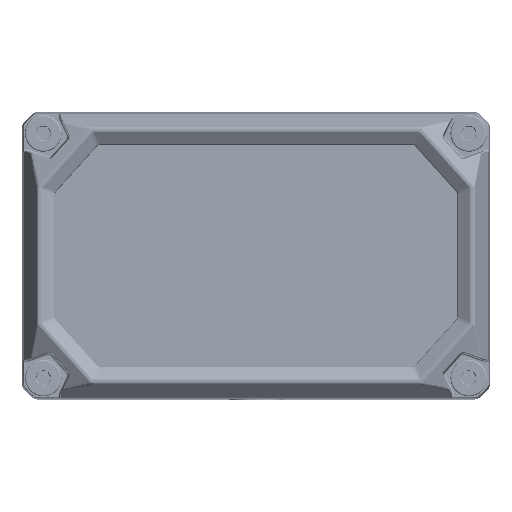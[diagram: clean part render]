
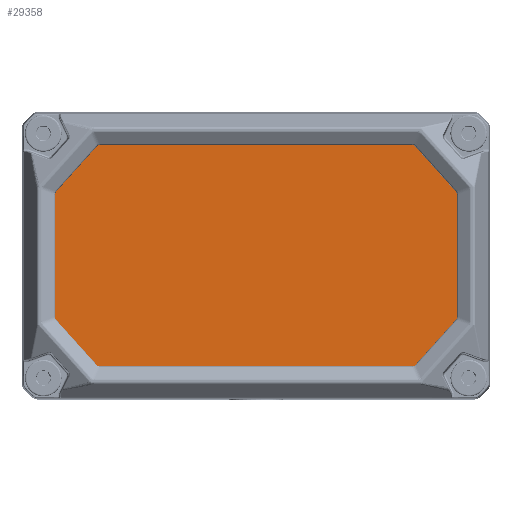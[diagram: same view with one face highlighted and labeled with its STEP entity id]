
A CAD part, top view. The second image highlights one B-rep face of the part: STEP entity #29358.
In plain terms, the highlighted planar face has unit normal (0, 0, 1).
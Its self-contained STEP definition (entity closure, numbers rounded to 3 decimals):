
#16135=LINE('',#138609,#21874);
#16136=LINE('',#138612,#21875);
#16137=LINE('',#138614,#21876);
#16138=LINE('',#138616,#21877);
#16139=LINE('',#138618,#21878);
#16140=LINE('',#138622,#21879);
#16141=LINE('',#138624,#21880);
#16142=LINE('',#138626,#21881);
#16143=LINE('',#138628,#21882);
#21874=VECTOR('',#112467,1.);
#21875=VECTOR('',#112468,1.);
#21876=VECTOR('',#112469,1.);
#21877=VECTOR('',#112470,1.);
#21878=VECTOR('',#112471,1.);
#21879=VECTOR('',#112474,1.);
#21880=VECTOR('',#112475,1.);
#21881=VECTOR('',#112476,1.);
#21882=VECTOR('',#112477,1.);
#29358=ADVANCED_FACE('',(#37605),#35278,.T.);
#35278=PLANE('',#102193);
#37605=FACE_OUTER_BOUND('',#42986,.T.);
#42986=EDGE_LOOP('',(#49976,#49977,#49978,#49979,#49980,#49981,#49982,#49983,
#49984,#49985));
#49976=ORIENTED_EDGE('',*,*,#84823,.F.);
#49977=ORIENTED_EDGE('',*,*,#84822,.F.);
#49978=ORIENTED_EDGE('',*,*,#84831,.F.);
#49979=ORIENTED_EDGE('',*,*,#84830,.F.);
#49980=ORIENTED_EDGE('',*,*,#84829,.F.);
#49981=ORIENTED_EDGE('',*,*,#84828,.F.);
#49982=ORIENTED_EDGE('',*,*,#84827,.F.);
#49983=ORIENTED_EDGE('',*,*,#84826,.F.);
#49984=ORIENTED_EDGE('',*,*,#84825,.F.);
#49985=ORIENTED_EDGE('',*,*,#84824,.F.);
#76382=VERTEX_POINT('',#138610);
#76383=VERTEX_POINT('',#138611);
#76384=VERTEX_POINT('',#138613);
#76385=VERTEX_POINT('',#138615);
#76386=VERTEX_POINT('',#138617);
#76387=VERTEX_POINT('',#138619);
#76388=VERTEX_POINT('',#138621);
#76389=VERTEX_POINT('',#138623);
#76390=VERTEX_POINT('',#138625);
#76391=VERTEX_POINT('',#138627);
#84822=EDGE_CURVE('',#76382,#76383,#16135,.T.);
#84823=EDGE_CURVE('',#76383,#76384,#16136,.T.);
#84824=EDGE_CURVE('',#76384,#76385,#16137,.T.);
#84825=EDGE_CURVE('',#76385,#76386,#16138,.T.);
#84826=EDGE_CURVE('',#76386,#76387,#16139,.T.);
#84827=EDGE_CURVE('',#76387,#76388,#98059,.T.);
#84828=EDGE_CURVE('',#76388,#76389,#16140,.T.);
#84829=EDGE_CURVE('',#76389,#76390,#16141,.T.);
#84830=EDGE_CURVE('',#76390,#76391,#16142,.T.);
#84831=EDGE_CURVE('',#76391,#76382,#16143,.T.);
#98059=CIRCLE('',#102173,8.);
#102173=AXIS2_PLACEMENT_3D('',#138620,#112472,#112473);
#102193=AXIS2_PLACEMENT_3D('',#138687,#112539,#112540);
#112467=DIRECTION('',(0.669,-0.743,0.));
#112468=DIRECTION('',(0.,-1.,0.));
#112469=DIRECTION('',(-0.669,-0.743,0.));
#112470=DIRECTION('',(-1.,0.,0.));
#112471=DIRECTION('',(-1.,0.,0.));
#112472=DIRECTION('',(0.,0.,1.));
#112473=DIRECTION('',(1.,0.,0.));
#112474=DIRECTION('',(0.,1.,0.));
#112475=DIRECTION('',(0.,1.,0.));
#112476=DIRECTION('',(0.669,0.743,0.));
#112477=DIRECTION('',(1.,0.,0.));
#112539=DIRECTION('',(0.,0.,1.));
#112540=DIRECTION('',(1.,0.,0.));
#138609=CARTESIAN_POINT('',(34.079,16.616,53.2));
#138610=CARTESIAN_POINT('',(29.862,21.3,53.2));
#138611=CARTESIAN_POINT('',(38.297,11.932,53.2));
#138612=CARTESIAN_POINT('',(38.297,0.,53.2));
#138613=CARTESIAN_POINT('',(38.297,-11.932,53.2));
#138614=CARTESIAN_POINT('',(34.079,-16.616,53.2));
#138615=CARTESIAN_POINT('',(29.862,-21.3,53.2));
#138616=CARTESIAN_POINT('',(-0.871,-21.3,53.2));
#138617=CARTESIAN_POINT('',(-31.603,-21.3,53.2));
#138618=CARTESIAN_POINT('',(-31.657,-21.3,53.2));
#138619=CARTESIAN_POINT('',(-31.71,-21.3,53.2));
#138620=CARTESIAN_POINT('',(-39.603,-22.6,53.2));
#138621=CARTESIAN_POINT('',(-38.303,-14.706,53.2));
#138622=CARTESIAN_POINT('',(-38.303,-14.653,53.2));
#138623=CARTESIAN_POINT('',(-38.303,-14.6,53.2));
#138624=CARTESIAN_POINT('',(-38.303,-1.334,53.2));
#138625=CARTESIAN_POINT('',(-38.303,11.932,53.2));
#138626=CARTESIAN_POINT('',(-34.086,16.616,53.2));
#138627=CARTESIAN_POINT('',(-29.869,21.3,53.2));
#138628=CARTESIAN_POINT('',(-0.003,21.3,53.2));
#138687=CARTESIAN_POINT('',(-39.603,-22.6,53.2));
